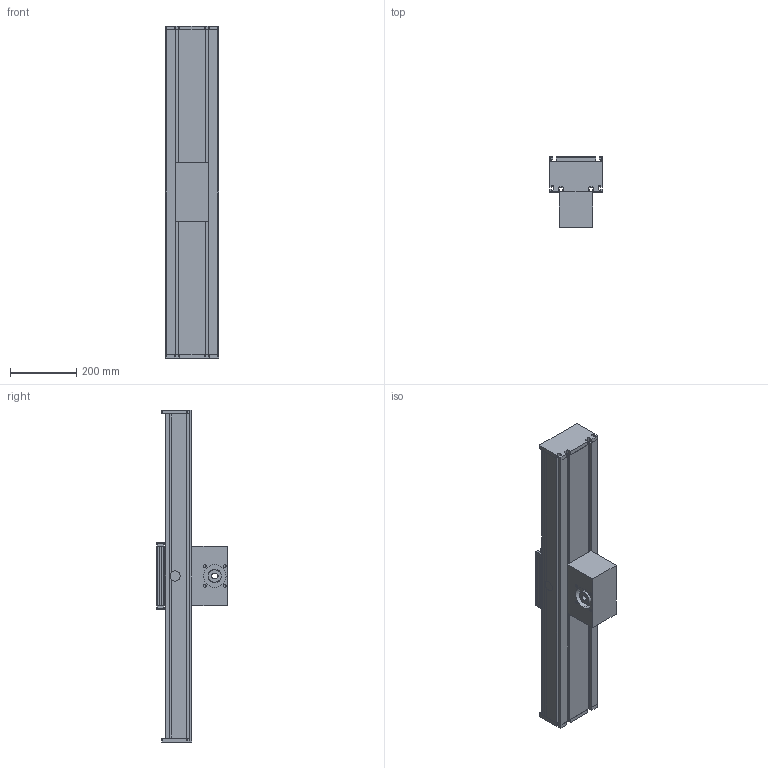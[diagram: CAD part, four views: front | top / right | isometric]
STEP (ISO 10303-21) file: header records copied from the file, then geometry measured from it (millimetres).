
FILE_DESCRIPTION (( 'STEP AP214' ), '1' );
FILE_NAME ('DLZS160.STEP', '2022-06-29T09:06:26', ( '' ), ( '' ), 'SwSTEP 2.0', 'SolidWorks 2020', '' );
FILE_SCHEMA (( 'AUTOMOTIVE_DESIGN' ));
Length unit declared in the file: millimetre
Products named in the file (5): end plate^DLZS160_standard; DLZS160; carriage^DLZS160_carriage version 0; timing belt reverse unit^DLZS160_coupling claw pos.1; profile^DLZS160_standard
Assembly tree (5 placements, depth 2):
  DLZS160
    profile^DLZS160_standard
    carriage^DLZS160_carriage version 0
    timing belt reverse unit^DLZS160_coupling claw pos.1
    end plate^DLZS160_standard  x2
Bounding box: 160.2 x 213 x 1000 mm (x, y, z)
Volume: 9292753.3 mm3; surface area: 1824053.2 mm2
Topology: 11 solids, 11 shells, 401 faces, 1083 edges, 708 vertices
Faces by surface type: plane 285, cylinder 106, sphere 8, cone 2
Entity records: 12340 total; most frequent: CARTESIAN_POINT 2010, ORIENTED_EDGE 1958, DIRECTION 1925, EDGE_CURVE 979, LINE 775, VECTOR 775, VERTEX_POINT 644, AXIS2_PLACEMENT_3D 575
